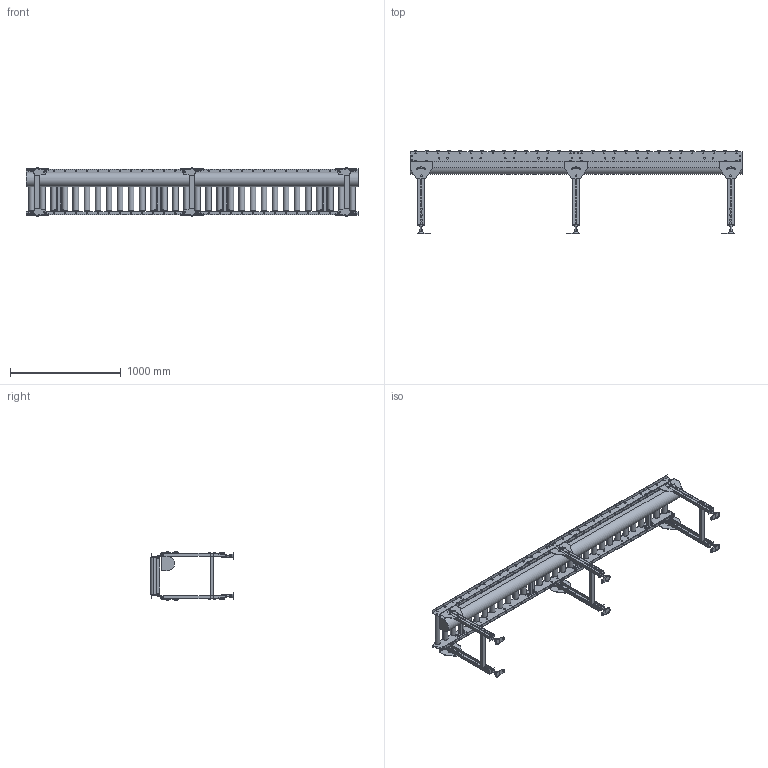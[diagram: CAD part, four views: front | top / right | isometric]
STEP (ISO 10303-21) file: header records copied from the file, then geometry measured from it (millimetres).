
FILE_DESCRIPTION (( 'STEP AP214' ), '1' );
FILE_NAME ('SWD-MCD50-ストレート-100P-355.STEP', '2022-08-01T01:53:56', ( '' ), ( '' ), 'SwSTEP 2.0', 'SolidWorks 2017', '' );
FILE_SCHEMA (( 'AUTOMOTIVE_DESIGN' ));
Length unit declared in the file: millimetre
Products named in the file (1): SWD-MCD50-ストレート-100P-355
Bounding box: 3000 x 750 x 439.4 mm (x, y, z)
Volume: 69498073.6 mm3; surface area: 6440937.3 mm2
Topology: 28 solids, 74 shells, 3822 faces, 10188 edges, 6472 vertices
Faces by surface type: plane 2493, cylinder 1317, cone 12
Entity records: 162845 total; most frequent: DIRECTION 21380, CARTESIAN_POINT 20879, ORIENTED_EDGE 20376, EDGE_CURVE 10188, AXIS2_PLACEMENT_3D 7381, LINE 6618, VECTOR 6618, VERTEX_POINT 6472
